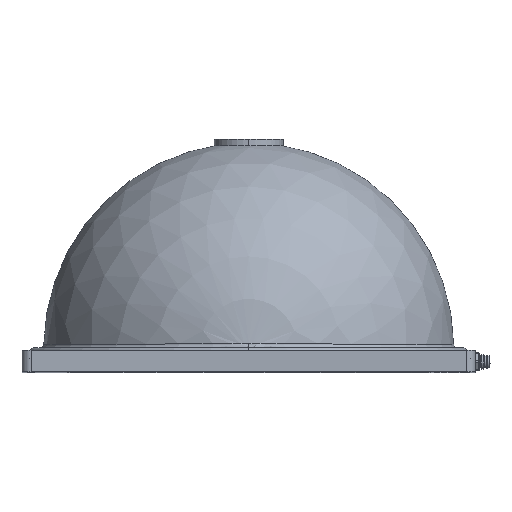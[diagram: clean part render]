
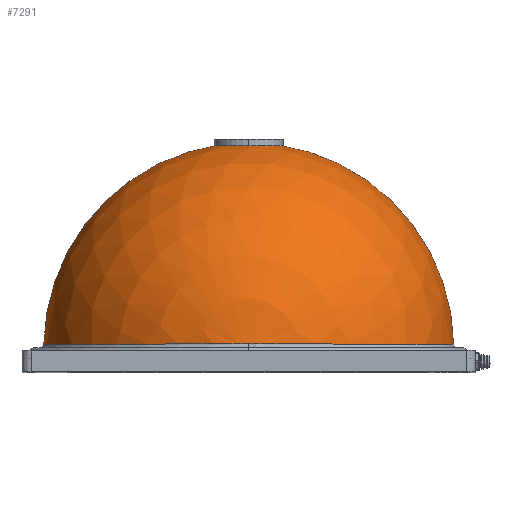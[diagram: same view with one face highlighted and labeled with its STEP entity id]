
A CAD part, top view. The second image highlights one B-rep face of the part: STEP entity #7291.
In plain terms, the highlighted spherical face has radius 113 mm.
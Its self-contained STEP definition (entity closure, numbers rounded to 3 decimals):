
#8 = ORIENTED_EDGE ( 'NONE', *, *, #8838, .T. ) ;
#316 = ORIENTED_EDGE ( 'NONE', *, *, #4872, .T. ) ;
#797 = CARTESIAN_POINT ( 'NONE',  ( 0., 15.465, 0. ) ) ;
#868 = CIRCLE ( 'NONE', #3787, 113. ) ;
#1212 = CARTESIAN_POINT ( 'NONE',  ( 112.983, 15.465, 0. ) ) ;
#1248 = DIRECTION ( 'NONE',  ( 0., 0., -1. ) ) ;
#1289 = CIRCLE ( 'NONE', #7039, 15.879 ) ;
#1381 = CARTESIAN_POINT ( 'NONE',  ( 0., 13.5, 0. ) ) ;
#1494 = AXIS2_PLACEMENT_3D ( 'NONE', #1381, #7421, #2897 ) ;
#1534 = DIRECTION ( 'NONE',  ( 0., 0., -1. ) ) ;
#1654 = AXIS2_PLACEMENT_3D ( 'NONE', #797, #6070, #1534 ) ;
#2024 = ORIENTED_EDGE ( 'NONE', *, *, #3401, .T. ) ;
#2090 = ORIENTED_EDGE ( 'NONE', *, *, #6628, .T. ) ;
#2211 = VERTEX_POINT ( 'NONE', #5791 ) ;
#2290 = CARTESIAN_POINT ( 'NONE',  ( 0., 15.465, 112.983 ) ) ;
#2378 = EDGE_LOOP ( 'NONE', ( #8070, #8006, #2090, #316, #2024, #8 ) ) ;
#2632 = CARTESIAN_POINT ( 'NONE',  ( 0., 125.379, 15.879 ) ) ;
#2897 = DIRECTION ( 'NONE',  ( 1., 0., 0. ) ) ;
#3102 = CARTESIAN_POINT ( 'NONE',  ( 0., 125.379, 0. ) ) ;
#3130 = VERTEX_POINT ( 'NONE', #4572 ) ;
#3227 = CIRCLE ( 'NONE', #1654, 112.983 ) ;
#3332 = VERTEX_POINT ( 'NONE', #2632 ) ;
#3401 = EDGE_CURVE ( 'NONE', #6249, #3332, #1289, .T. ) ;
#3470 = VERTEX_POINT ( 'NONE', #1212 ) ;
#3787 = AXIS2_PLACEMENT_3D ( 'NONE', #8911, #9688, #5799 ) ;
#4246 = DIRECTION ( 'NONE',  ( 0., -1., 0. ) ) ;
#4398 = AXIS2_PLACEMENT_3D ( 'NONE', #6303, #7897, #8680 ) ;
#4519 = DIRECTION ( 'NONE',  ( 0., 1., 0. ) ) ;
#4572 = CARTESIAN_POINT ( 'NONE',  ( -112.983, 15.465, 0. ) ) ;
#4869 = AXIS2_PLACEMENT_3D ( 'NONE', #6710, #4519, #8309 ) ;
#4872 = EDGE_CURVE ( 'NONE', #3470, #6249, #6523, .T. ) ;
#5025 = CIRCLE ( 'NONE', #4869, 112.983 ) ;
#5261 = FACE_OUTER_BOUND ( 'NONE', #2378, .T. ) ;
#5468 = CARTESIAN_POINT ( 'NONE',  ( 15.879, 125.379, 0. ) ) ;
#5480 = SPHERICAL_SURFACE ( 'NONE', #4398, 113. ) ;
#5791 = CARTESIAN_POINT ( 'NONE',  ( -15.879, 125.379, 0. ) ) ;
#5799 = DIRECTION ( 'NONE',  ( -1., 0., 0. ) ) ;
#6070 = DIRECTION ( 'NONE',  ( 0., 1., 0. ) ) ;
#6249 = VERTEX_POINT ( 'NONE', #5468 ) ;
#6303 = CARTESIAN_POINT ( 'NONE',  ( 0., 13.5, 0. ) ) ;
#6523 = CIRCLE ( 'NONE', #1494, 113. ) ;
#6628 = EDGE_CURVE ( 'NONE', #8938, #3470, #3227, .T. ) ;
#6710 = CARTESIAN_POINT ( 'NONE',  ( 0., 15.465, 0. ) ) ;
#6860 = DIRECTION ( 'NONE',  ( 0., -1., 0. ) ) ;
#7039 = AXIS2_PLACEMENT_3D ( 'NONE', #8784, #4246, #1248 ) ;
#7291 = ADVANCED_FACE ( 'NONE', ( #5261 ), #5480, .T. ) ;
#7421 = DIRECTION ( 'NONE',  ( 0., 0., 1. ) ) ;
#7897 = DIRECTION ( 'NONE',  ( 0., 0., -1. ) ) ;
#7983 = EDGE_CURVE ( 'NONE', #3130, #8938, #5025, .T. ) ;
#8006 = ORIENTED_EDGE ( 'NONE', *, *, #7983, .T. ) ;
#8070 = ORIENTED_EDGE ( 'NONE', *, *, #8308, .F. ) ;
#8308 = EDGE_CURVE ( 'NONE', #3130, #2211, #868, .T. ) ;
#8309 = DIRECTION ( 'NONE',  ( 0., 0., -1. ) ) ;
#8680 = DIRECTION ( 'NONE',  ( 1., 0., 0. ) ) ;
#8784 = CARTESIAN_POINT ( 'NONE',  ( 0., 125.379, 0. ) ) ;
#8838 = EDGE_CURVE ( 'NONE', #3332, #2211, #9314, .T. ) ;
#8911 = CARTESIAN_POINT ( 'NONE',  ( 0., 13.5, 0. ) ) ;
#8938 = VERTEX_POINT ( 'NONE', #2290 ) ;
#9204 = DIRECTION ( 'NONE',  ( 0., 0., -1. ) ) ;
#9314 = CIRCLE ( 'NONE', #9451, 15.879 ) ;
#9451 = AXIS2_PLACEMENT_3D ( 'NONE', #3102, #6860, #9204 ) ;
#9688 = DIRECTION ( 'NONE',  ( 0., 0., -1. ) ) ;
